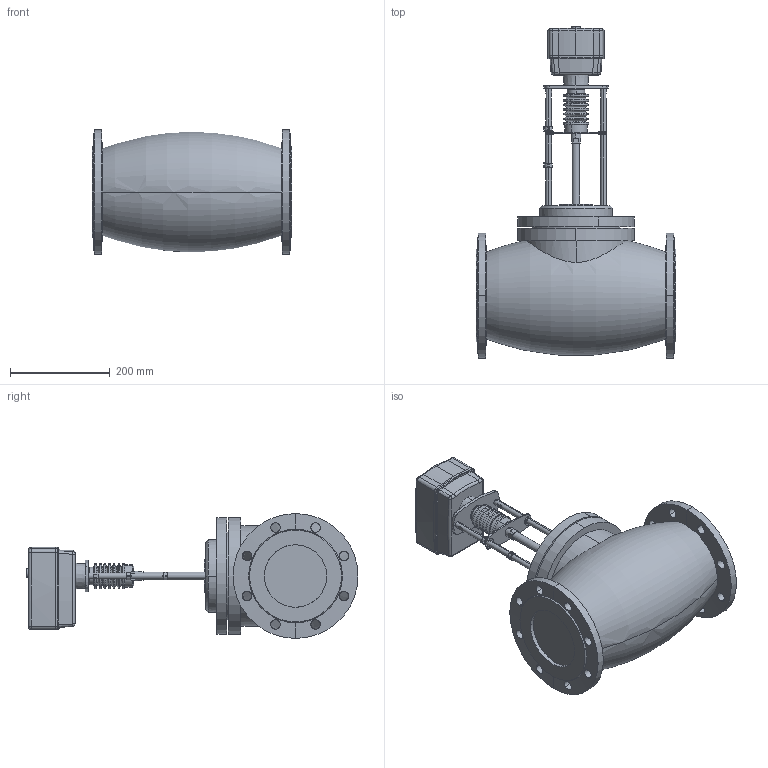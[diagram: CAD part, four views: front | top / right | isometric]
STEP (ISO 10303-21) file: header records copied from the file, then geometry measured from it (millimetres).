
FILE_DESCRIPTION (( 'STEP AP214' ), '1' );
FILE_NAME ('TRV-125-X-120.STEP', '2025-12-12T05:09:28', ( '' ), ( '' ), 'SwSTEP 2.0', 'SolidWorks 2023', '' );
FILE_SCHEMA (( 'AUTOMOTIVE_DESIGN' ));
Length unit declared in the file: millimetre
Products named in the file (1): TRV-125-X-120
Bounding box: 400 x 664.58 x 250 mm (x, y, z)
Volume: 19514670.8 mm3; surface area: 702598.3 mm2
Topology: 2 solids, 3 shells, 397 faces, 991 edges, 622 vertices
Faces by surface type: plane 147, cylinder 126, cone 60, torus 44, bspline 16, sphere 4
Entity records: 18307 total; most frequent: CARTESIAN_POINT 8788, DIRECTION 1983, ORIENTED_EDGE 1982, EDGE_CURVE 991, AXIS2_PLACEMENT_3D 771, VERTEX_POINT 622, EDGE_LOOP 461, LINE 441
